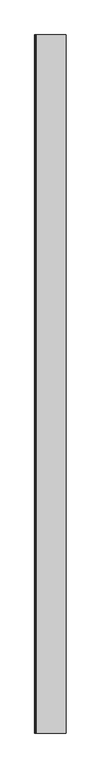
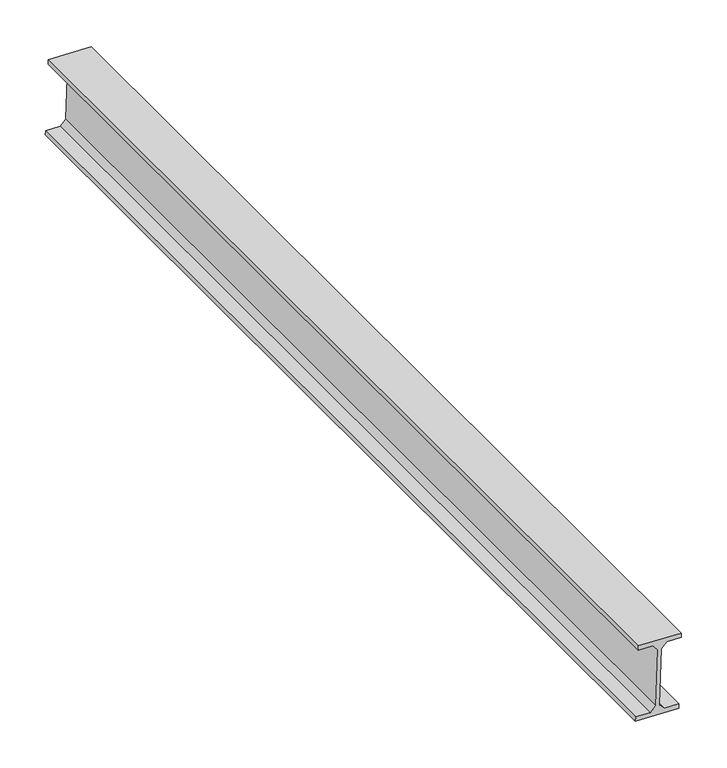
"""IFC4 building model written with IfcOpenShell, lengths in millimetres: beam geometry, Panne 191593 : Panne 191593."""

import ifcopenshell
import ifcopenshell.guid

model = None  # the IFC model being written
_history = None  # IfcOwnerHistory: only IFC2X3 demands one
_inside = {}  # id of a spatial element -> (the spatial element, [elements in it])
_under = {}  # id of a project, library or spatial element -> (it, [spatial elements below it])
_declared = {}  # id of a project -> (the project, [libraries it declares])
_typed = {}  # id of a type object -> (the type object, [elements of that type])
_made_of = {}  # id of a material, layer set ... -> (it, [elements and type objects made of it])


def new_model(schema):
    """Start an empty IFC model of exactly this schema.

    Asked for "IFC4X3", IfcOpenShell would pick the latest addendum, in which some entities
    have other attributes; the version numbers below select the first issue.
    IFC2X3 requires an IfcOwnerHistory on every rooted entity: one is made here for all.
    """
    global model, _history
    if schema == "IFC4X3":
        model = ifcopenshell.file(schema_version=(4, 3, 0, 0))
    else:
        model = ifcopenshell.file(schema=schema)
    _inside.clear()
    _under.clear()
    _declared.clear()
    _typed.clear()
    _made_of.clear()
    _history = None
    if model.schema == "IFC2X3":
        org = make("IfcOrganization", Name="unknown")
        user = make(
            "IfcPersonAndOrganization",
            ThePerson=make("IfcPerson", FamilyName="unknown"),
            TheOrganization=org,
        )
        app = make(
            "IfcApplication",
            ApplicationDeveloper=org,
            Version="unknown",
            ApplicationFullName="unknown",
            ApplicationIdentifier="unknown",
        )
        _history = make(
            "IfcOwnerHistory",
            OwningUser=user,
            OwningApplication=app,
            ChangeAction="ADDED",
            CreationDate=0,
        )
    return model


def make(cls, **values):
    """One entity of the class cls with the attributes given. An attribute that is None is left unset."""
    return model.create_entity(
        cls, **{name: value for name, value in values.items() if value is not None}
    )


def rooted(cls, **values):
    """An entity with a GlobalId (a new one), such as an element, a storey or a relation."""
    return make(cls, GlobalId=ifcopenshell.guid.new(), OwnerHistory=_history, **values)


def si_unit(unit_type, name, prefix=None):
    """IfcSIUnit, for example si_unit("LENGTHUNIT", "METRE", prefix="MILLI")."""
    return make("IfcSIUnit", UnitType=unit_type, Prefix=prefix, Name=name)


def assignment(units):
    """IfcUnitAssignment: the units of a project."""
    return None if units is None else make("IfcUnitAssignment", Units=units)


def point(xyz):
    """IfcCartesianPoint."""
    return None if xyz is None else make("IfcCartesianPoint", Coordinates=xyz)


def direction(xyz):
    """IfcDirection."""
    return None if xyz is None else make("IfcDirection", DirectionRatios=xyz)


def frame(location, z_axis=None, x_axis=None):
    """IfcAxis2Placement3D, a coordinate frame: its origin and axes. An axis left out is left unset."""
    return make(
        "IfcAxis2Placement3D",
        Location=point(location),
        Axis=direction(z_axis),
        RefDirection=direction(x_axis),
    )


def origin():
    """The frame at (0, 0, 0) with its axes left unset."""
    return frame((0.0, 0.0, 0.0))


def place(relative_to, where):
    """IfcLocalPlacement: puts the frame where relative to a parent placement (None: the world)."""
    return make(
        "IfcLocalPlacement", PlacementRelTo=relative_to, RelativePlacement=where
    )


def context(
    kind, dimensions, precision=None, world=None, true_north=None, identifier=None
):
    """IfcGeometricRepresentationContext, for example the 3D "Model" context."""
    return make(
        "IfcGeometricRepresentationContext",
        ContextIdentifier=identifier,
        ContextType=kind,
        CoordinateSpaceDimension=dimensions,
        Precision=precision,
        WorldCoordinateSystem=world,
        TrueNorth=true_north,
    )


def project(units=None, contexts=None):
    """IfcProject with its units and contexts."""
    return rooted(
        "IfcProject",
        Name="project",
        RepresentationContexts=contexts,
        UnitsInContext=assignment(units),
    )


def spatial(cls, under=None, at=None, **own):
    """A site, building, storey or space (cls), placed at a placement, below another one or the project."""
    s = rooted(cls, ObjectPlacement=at, **own)
    if under is not None:
        _under.setdefault(under.id(), (under, []))[1].append(s)
    return s


def polyline(points):
    """IfcPolyline through the points."""
    return make("IfcPolyline", Points=[point(p) for p in points])


def outline(outer, holes=None, kind="AREA"):
    """IfcArbitraryClosedProfileDef: a profile drawn as a closed curve; with holes, ...WithVoids."""
    if holes is None:
        return make("IfcArbitraryClosedProfileDef", ProfileType=kind, OuterCurve=outer)
    return make(
        "IfcArbitraryProfileDefWithVoids",
        ProfileType=kind,
        OuterCurve=outer,
        InnerCurves=holes,
    )


def extrude(swept, where, along, depth):
    """IfcExtrudedAreaSolid: the profile swept, set in the frame where, extruded along a direction by depth."""
    return make(
        "IfcExtrudedAreaSolid",
        SweptArea=swept,
        Position=where,
        ExtrudedDirection=direction(along),
        Depth=depth,
    )


def shape(context_of_items, identifier, shape_type, items):
    """IfcShapeRepresentation: the items that make up one representation, for example the "Body"."""
    return make(
        "IfcShapeRepresentation",
        ContextOfItems=context_of_items,
        RepresentationIdentifier=identifier,
        RepresentationType=shape_type,
        Items=items,
    )


def source(mapping_origin, context_of_items, identifier, shape_type, items):
    """IfcRepresentationMap: a shape defined once, which mapped items show again and again."""
    return make(
        "IfcRepresentationMap",
        MappingOrigin=mapping_origin,
        MappedRepresentation=shape(context_of_items, identifier, shape_type, items),
    )


def transform(
    local_origin,
    x_axis=None,
    y_axis=None,
    z_axis=None,
    scale=None,
    scale2=None,
    scale3=None,
    uniform=True,
):
    """IfcCartesianTransformationOperator3D, or its non-uniform kind. x_axis, y_axis, z_axis: its Axis1, 2, 3."""
    if uniform:
        return make(
            "IfcCartesianTransformationOperator3D",
            Axis1=direction(x_axis),
            Axis2=direction(y_axis),
            LocalOrigin=point(local_origin),
            Scale=scale,
            Axis3=direction(z_axis),
        )
    return make(
        "IfcCartesianTransformationOperator3DnonUniform",
        Axis1=direction(x_axis),
        Axis2=direction(y_axis),
        LocalOrigin=point(local_origin),
        Scale=scale,
        Axis3=direction(z_axis),
        Scale2=scale2,
        Scale3=scale3,
    )


def mapped(mapping_source, mapping_target):
    """IfcMappedItem: shows the shape of a source again, moved by a transform."""
    return make(
        "IfcMappedItem", MappingSource=mapping_source, MappingTarget=mapping_target
    )


def made_of(thing, what):
    """Note that an element or type object is made of a material, layer set ...; save() writes the relation."""
    if what is not None:
        _made_of.setdefault(what.id(), (what, []))[1].append(thing)
    return thing


def element(
    cls,
    number,
    at=None,
    inside=None,
    cuts=None,
    type_object=None,
    material=None,
    context=None,
    identifier="Body",
    shape_type=None,
    held_by="IfcProductDefinitionShape",
    body=None,
    shapes=None,
    **own,
):
    """One element of the class cls, such as IfcWall. Its Tag is "e" and its number.

    at: its placement. inside: the storey or other place that contains it. cuts: it is an
    opening in that element (IfcRelVoidsElement). A single representation is given by context,
    identifier, shape_type and body (its items); several are given by shapes. held_by: the class
    of the entity that holds the representations. save() writes the other relations.
    """
    e = rooted(cls, Tag="e%d" % number, ObjectPlacement=at, **own)
    if body is not None:
        shapes = [shape(context, identifier, shape_type, body)]
    if shapes is not None:
        e.Representation = make(held_by, Representations=shapes)
    if inside is not None:
        _inside.setdefault(inside.id(), (inside, []))[1].append(e)
    if cuts is not None:
        rooted(
            "IfcRelVoidsElement", RelatingBuildingElement=cuts, RelatedOpeningElement=e
        )
    if type_object is not None:
        _typed.setdefault(type_object.id(), (type_object, []))[1].append(e)
    return made_of(e, material)


def aggregate(whole, parts):
    """IfcRelAggregates: a whole, such as a stair, and the parts it consists of."""
    return rooted("IfcRelAggregates", RelatingObject=whole, RelatedObjects=parts)


def save(model, path):
    """Write the relations noted so far, then the file.

    IfcRelAggregates (storeys below a building ...), IfcRelContainedInSpatialStructure (elements
    in a storey), IfcRelDefinesByType, IfcRelAssociatesMaterial and IfcRelDeclares: one each for
    every whole, place, type object, material and project.
    """
    for whole, parts in _under.values():
        aggregate(whole, parts)
    for where, things in _inside.values():
        rooted(
            "IfcRelContainedInSpatialStructure",
            RelatedElements=things,
            RelatingStructure=where,
        )
    for kind, things in _typed.values():
        rooted("IfcRelDefinesByType", RelatedObjects=things, RelatingType=kind)
    for what, things in _made_of.values():
        rooted("IfcRelAssociatesMaterial", RelatedObjects=things, RelatingMaterial=what)
    for by, libraries in _declared.values():
        rooted("IfcRelDeclares", RelatingContext=by, RelatedDefinitions=libraries)
    model.write(path)


def beam_86b70a0b(model_context):
    return source(origin(), model_context, "Body", "SweptSolid", [
        extrude(outline(polyline([(7834.7728314, 5683.6333893), (7836.6966534, 5628.6670459), (7831.0001414, 5628.4676679), (7830.3547866, 5646.9063777), (7823.1142201, 5653.657244), (7748.5598706, 5651.0478418), (7741.8090043, 5643.8072753), (7742.4543591, 5625.3685656), (7736.7578472, 5625.1691876), (7734.8340252, 5680.1355311), (7740.5305371, 5680.334909), (7741.175892, 5661.8961992), (7748.4164585, 5655.1453329), (7822.9708079, 5657.7547351), (7829.7216743, 5664.9953016), (7829.0763194, 5683.4340114), (7834.7728314, 5683.6333893)])), frame((0.0, -39755.0, 0.0), z_axis=(0.0, 1.0, 0.0), x_axis=(0.0, 0.0, 1.0)), (0.0, 0.0, 1.0), 1299.45),
    ])


if __name__ == "__main__":
    model = new_model("IFC4")
    model_context = context("Model", 3, world=origin())
    ifc_project = project(units=[si_unit("LENGTHUNIT", "METRE", prefix="MILLI")], contexts=[model_context])
    site = spatial("IfcSite", under=ifc_project)
    building = spatial("IfcBuilding", under=site)
    placement = place(None, origin())
    beam_shape = beam_86b70a0b(model_context)
    element("IfcBeam", 1, ObjectType="Panne 191593 : Panne 191593", at=placement, inside=building, context=model_context, shape_type="MappedRepresentation", body=[
        mapped(beam_shape, transform((0.0, 0.0, 0.0), x_axis=(1.0, 0.0, 0.0), y_axis=(0.0, 1.0, 0.0), z_axis=(0.0, 0.0, 1.0))),
    ])
    save(model, "model.ifc")
